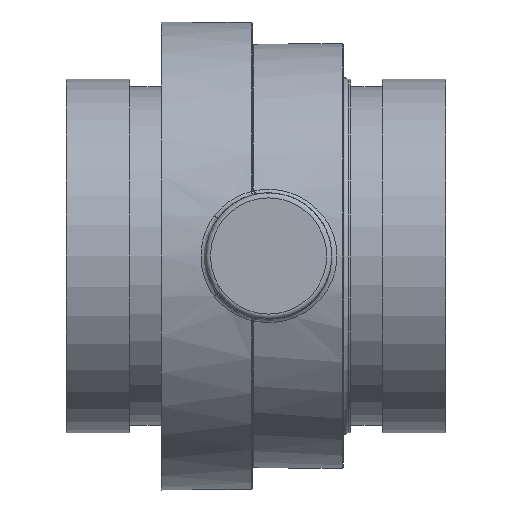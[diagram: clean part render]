
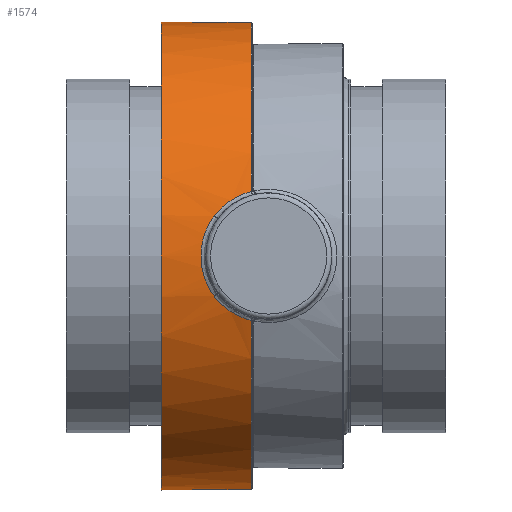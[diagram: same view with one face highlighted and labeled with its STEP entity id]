
A CAD part, front view. The second image highlights one B-rep face of the part: STEP entity #1574.
In plain terms, the highlighted cylindrical face has radius 58.801 mm (diameter 117.602 mm), a full revolution.
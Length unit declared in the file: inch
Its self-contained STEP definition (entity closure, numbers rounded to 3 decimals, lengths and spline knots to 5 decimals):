
#84=B_SPLINE_CURVE_WITH_KNOTS('',3,(#2882,#2883,#2884,#2885),
 .UNSPECIFIED.,.F.,.F.,(4,4),(-1.15621,0.),
 .UNSPECIFIED.);
#86=B_SPLINE_CURVE_WITH_KNOTS('',3,(#2929,#2930,#2931,#2932,#2933,#2934),
 .UNSPECIFIED.,.F.,.F.,(4,1,1,4),(-2.20766,-1.5769,-1.26152,
-1.10384),.UNSPECIFIED.);
#87=B_SPLINE_CURVE_WITH_KNOTS('',3,(#2935,#2936,#2937,#2938,#2939),
 .UNSPECIFIED.,.F.,.F.,(4,1,4),(-1.10384,-0.63076,0.),
 .UNSPECIFIED.);
#91=B_SPLINE_CURVE_WITH_KNOTS('',3,(#2979,#2980,#2981,#2982),
 .UNSPECIFIED.,.F.,.F.,(4,4),(-4.5303,-3.37408),
 .UNSPECIFIED.);
#96=B_SPLINE_CURVE_WITH_KNOTS('',3,(#3089,#3090,#3091,#3092,#3093),
 .UNSPECIFIED.,.F.,.F.,(4,1,4),(0.,0.1041,0.2429),
 .UNSPECIFIED.);
#97=B_SPLINE_CURVE_WITH_KNOTS('',3,(#3097,#3098,#3099,#3100,#3101),
 .UNSPECIFIED.,.F.,.F.,(4,1,4),(0.,0.1041,0.2429),
 .UNSPECIFIED.);
#205=FACE_OUTER_BOUND('',#301,.T.);
#301=EDGE_LOOP('',(#1202,#1203,#1204,#1205,#1206,#1207,#1208,#1209,#1210,
#1211,#1212,#1213,#1214,#1215,#1216));
#404=LINE('',#3087,#468);
#405=LINE('',#3103,#469);
#406=LINE('',#3106,#470);
#468=VECTOR('',#2108,0.3937);
#469=VECTOR('',#2111,0.3937);
#470=VECTOR('',#2114,2.315);
#542=CIRCLE('',#1738,2.315);
#543=CIRCLE('',#1739,2.315);
#544=CIRCLE('',#1740,2.315);
#545=CIRCLE('',#1741,2.315);
#546=CIRCLE('',#1742,2.315);
#671=VERTEX_POINT('',#2845);
#673=VERTEX_POINT('',#2880);
#675=VERTEX_POINT('',#2926);
#676=VERTEX_POINT('',#2928);
#679=VERTEX_POINT('',#2977);
#697=VERTEX_POINT('',#3084);
#698=VERTEX_POINT('',#3086);
#699=VERTEX_POINT('',#3088);
#700=VERTEX_POINT('',#3094);
#701=VERTEX_POINT('',#3096);
#702=VERTEX_POINT('',#3102);
#703=VERTEX_POINT('',#3105);
#704=VERTEX_POINT('',#3107);
#847=EDGE_CURVE('',#673,#671,#84,.T.);
#850=EDGE_CURVE('',#675,#676,#86,.T.);
#851=EDGE_CURVE('',#676,#673,#87,.T.);
#856=EDGE_CURVE('',#679,#675,#91,.T.);
#885=EDGE_CURVE('',#697,#679,#542,.T.);
#886=EDGE_CURVE('',#698,#697,#404,.T.);
#887=EDGE_CURVE('',#699,#698,#96,.T.);
#888=EDGE_CURVE('',#700,#699,#543,.T.);
#889=EDGE_CURVE('',#701,#700,#97,.T.);
#890=EDGE_CURVE('',#702,#701,#405,.T.);
#891=EDGE_CURVE('',#671,#702,#544,.T.);
#892=EDGE_CURVE('',#676,#703,#406,.T.);
#893=EDGE_CURVE('',#703,#704,#545,.T.);
#894=EDGE_CURVE('',#704,#703,#546,.T.);
#1202=ORIENTED_EDGE('',*,*,#856,.F.);
#1203=ORIENTED_EDGE('',*,*,#885,.F.);
#1204=ORIENTED_EDGE('',*,*,#886,.F.);
#1205=ORIENTED_EDGE('',*,*,#887,.F.);
#1206=ORIENTED_EDGE('',*,*,#888,.F.);
#1207=ORIENTED_EDGE('',*,*,#889,.F.);
#1208=ORIENTED_EDGE('',*,*,#890,.F.);
#1209=ORIENTED_EDGE('',*,*,#891,.F.);
#1210=ORIENTED_EDGE('',*,*,#847,.F.);
#1211=ORIENTED_EDGE('',*,*,#851,.F.);
#1212=ORIENTED_EDGE('',*,*,#892,.T.);
#1213=ORIENTED_EDGE('',*,*,#893,.T.);
#1214=ORIENTED_EDGE('',*,*,#894,.T.);
#1215=ORIENTED_EDGE('',*,*,#892,.F.);
#1216=ORIENTED_EDGE('',*,*,#850,.F.);
#1417=CYLINDRICAL_SURFACE('',#1737,2.315);
#1574=ADVANCED_FACE('',(#205),#1417,.T.);
#1737=AXIS2_PLACEMENT_3D('',#3083,#2104,#2105);
#1738=AXIS2_PLACEMENT_3D('',#3085,#2106,#2107);
#1739=AXIS2_PLACEMENT_3D('',#3095,#2109,#2110);
#1740=AXIS2_PLACEMENT_3D('',#3104,#2112,#2113);
#1741=AXIS2_PLACEMENT_3D('',#3108,#2115,#2116);
#1742=AXIS2_PLACEMENT_3D('',#3109,#2117,#2118);
#2104=DIRECTION('center_axis',(1.,0.,0.));
#2105=DIRECTION('ref_axis',(0.,1.,0.));
#2106=DIRECTION('center_axis',(1.,0.,0.));
#2107=DIRECTION('ref_axis',(0.,-1.,0.));
#2108=DIRECTION('',(1.,0.,0.));
#2109=DIRECTION('center_axis',(1.,0.,0.));
#2110=DIRECTION('ref_axis',(0.,1.,0.));
#2111=DIRECTION('',(-1.,0.,0.));
#2112=DIRECTION('center_axis',(1.,0.,0.));
#2113=DIRECTION('ref_axis',(0.,-1.,0.));
#2114=DIRECTION('',(-1.,0.,0.));
#2115=DIRECTION('center_axis',(1.,0.,0.));
#2116=DIRECTION('ref_axis',(0.,0.,1.));
#2117=DIRECTION('center_axis',(1.,0.,0.));
#2118=DIRECTION('ref_axis',(0.,0.,1.));
#2845=CARTESIAN_POINT('',(-0.172,-2.22509,-0.63892));
#2880=CARTESIAN_POINT('',(-0.53972,-2.28074,-0.3968));
#2882=CARTESIAN_POINT('Ctrl Pts',(-0.53972,-2.28074,
-0.3968));
#2883=CARTESIAN_POINT('Ctrl Pts',(-0.44947,-2.26028,-0.51443));
#2884=CARTESIAN_POINT('Ctrl Pts',(-0.31833,-2.23592,
-0.60117));
#2885=CARTESIAN_POINT('Ctrl Pts',(-0.172,-2.22509,
-0.63892));
#2926=CARTESIAN_POINT('',(-0.53972,-2.28074,0.3968));
#2928=CARTESIAN_POINT('',(-0.66867,-2.315,0.));
#2929=CARTESIAN_POINT('Ctrl Pts',(-0.53972,-2.28074,0.3968));
#2930=CARTESIAN_POINT('Ctrl Pts',(-0.58896,-2.2919,
0.33263));
#2931=CARTESIAN_POINT('Ctrl Pts',(-0.64207,-2.30679,
0.22119));
#2932=CARTESIAN_POINT('Ctrl Pts',(-0.666,-2.31421,0.08104));
#2933=CARTESIAN_POINT('Ctrl Pts',(-0.66863,-2.31497,
0.02026));
#2934=CARTESIAN_POINT('Ctrl Pts',(-0.66864,-2.31497,
0.));
#2935=CARTESIAN_POINT('Ctrl Pts',(-0.66864,-2.31497,
0.));
#2936=CARTESIAN_POINT('Ctrl Pts',(-0.66868,-2.31494,-0.06078));
#2937=CARTESIAN_POINT('Ctrl Pts',(-0.65073,-2.30937,
-0.20261));
#2938=CARTESIAN_POINT('Ctrl Pts',(-0.58896,-2.2919,
-0.33263));
#2939=CARTESIAN_POINT('Ctrl Pts',(-0.53972,-2.28074,
-0.3968));
#2977=CARTESIAN_POINT('',(-0.172,-2.22509,0.63892));
#2979=CARTESIAN_POINT('Ctrl Pts',(-0.172,-2.22509,
0.63892));
#2980=CARTESIAN_POINT('Ctrl Pts',(-0.31833,-2.23592,
0.60117));
#2981=CARTESIAN_POINT('Ctrl Pts',(-0.44946,-2.26027,
0.51443));
#2982=CARTESIAN_POINT('Ctrl Pts',(-0.53972,-2.28074,0.3968));
#3083=CARTESIAN_POINT('Origin',(-0.612,0.,0.));
#3084=CARTESIAN_POINT('',(-0.172,2.24052,0.58248));
#3085=CARTESIAN_POINT('Origin',(-0.172,0.,0.));
#3086=CARTESIAN_POINT('',(-0.51,2.24052,0.58248));
#3087=CARTESIAN_POINT('',(-0.612,2.24052,0.58248));
#3088=CARTESIAN_POINT('',(-0.57,2.25521,0.52274));
#3089=CARTESIAN_POINT('Ctrl Pts',(-0.57,2.25521,0.52274));
#3090=CARTESIAN_POINT('Ctrl Pts',(-0.57,2.25214,0.53599));
#3091=CARTESIAN_POINT('Ctrl Pts',(-0.55944,2.24462,0.56695));
#3092=CARTESIAN_POINT('Ctrl Pts',(-0.52822,2.24052,0.58248));
#3093=CARTESIAN_POINT('Ctrl Pts',(-0.51,2.24052,0.58248));
#3094=CARTESIAN_POINT('',(-0.57,2.25521,-0.52274));
#3095=CARTESIAN_POINT('Origin',(-0.57,0.,0.));
#3096=CARTESIAN_POINT('',(-0.51,2.24052,-0.58248));
#3097=CARTESIAN_POINT('Ctrl Pts',(-0.51,2.24052,-0.58248));
#3098=CARTESIAN_POINT('Ctrl Pts',(-0.52366,2.24052,-0.58248));
#3099=CARTESIAN_POINT('Ctrl Pts',(-0.55542,2.24353,-0.57109));
#3100=CARTESIAN_POINT('Ctrl Pts',(-0.57,2.25111,-0.54041));
#3101=CARTESIAN_POINT('Ctrl Pts',(-0.57,2.25521,-0.52274));
#3102=CARTESIAN_POINT('',(-0.172,2.24052,-0.58248));
#3103=CARTESIAN_POINT('',(-0.612,2.24052,-0.58248));
#3104=CARTESIAN_POINT('Origin',(-0.172,0.,0.));
#3105=CARTESIAN_POINT('',(-1.062,-2.315,0.));
#3106=CARTESIAN_POINT('',(-0.612,-2.315,0.));
#3107=CARTESIAN_POINT('',(-1.062,2.315,0.));
#3108=CARTESIAN_POINT('Origin',(-1.062,0.,0.));
#3109=CARTESIAN_POINT('Origin',(-1.062,0.,0.));
